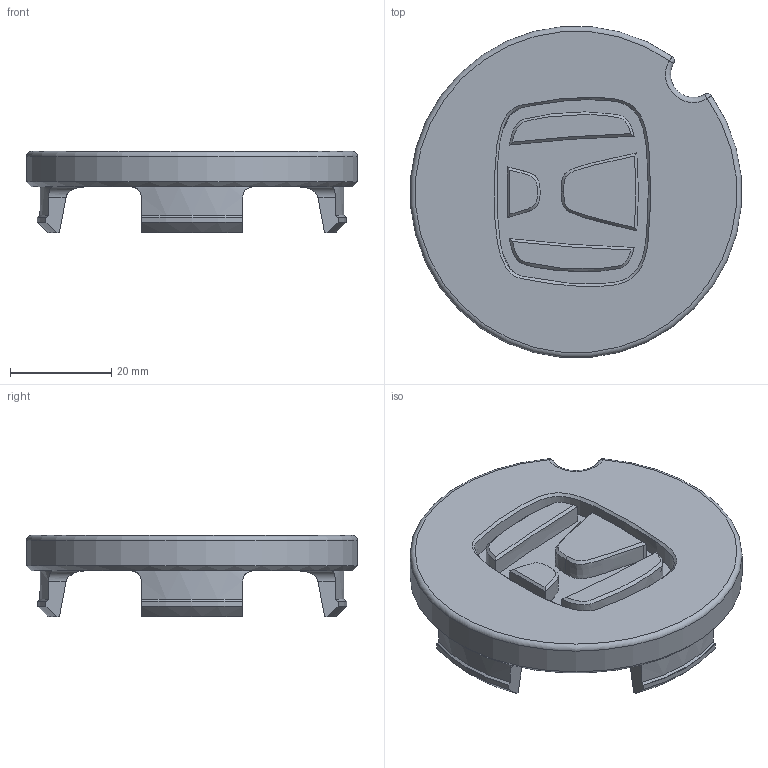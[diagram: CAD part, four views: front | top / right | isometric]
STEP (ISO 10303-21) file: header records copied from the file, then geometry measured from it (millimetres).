
FILE_DESCRIPTION(/* description */ (''),/* implementation_level */ '2;1');
FILE_NAME(/* name */ 'Honda_Cap.stp',/* time_stamp */ '2019-07-28T09:23:00+03:00',/* author */ (''),/* organization */ (''),/* preprocessor_version */ 'ST-DEVELOPER v16.7',/* originating_system */ 'SIEMENS PLM Software NX 12.0',/* authorisation */ '');
FILE_SCHEMA (('AUTOMOTIVE_DESIGN { 1 0 10303 214 3 1 1 1 }'));
Length unit declared in the file: millimetre
Products named in the file (1): usei277C5608c7kx
Bounding box: 65.27 x 65.27 x 16 mm (x, y, z)
Volume: 23398.5 mm3; surface area: 10619.6 mm2
Topology: 1 solids, 1 shells, 88 faces, 215 edges, 136 vertices
Faces by surface type: plane 28, cylinder 19, cone 13, extrusion 10, bspline 10, torus 6, sphere 2
Entity records: 4047 total; most frequent: CARTESIAN_POINT 2129, ORIENTED_EDGE 422, DIRECTION 315, EDGE_CURVE 211, VERTEX_POINT 136, AXIS2_PLACEMENT_3D 119, B_SPLINE_CURVE_WITH_KNOTS 105, EDGE_LOOP 99
